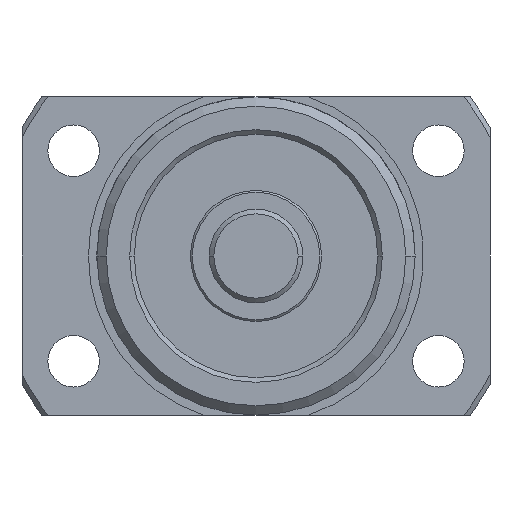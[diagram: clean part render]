
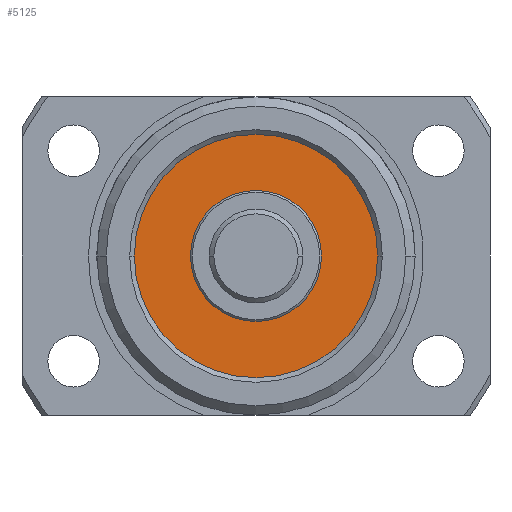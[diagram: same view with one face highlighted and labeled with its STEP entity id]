
A CAD part, left-side view. The second image highlights one B-rep face of the part: STEP entity #5125.
In plain terms, the highlighted planar face has unit normal (-1, 0, 0).
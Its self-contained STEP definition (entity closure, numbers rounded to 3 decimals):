
#9 = CARTESIAN_POINT ( 'NONE',  ( -36.5, 0., -7. ) ) ;
#776 = DIRECTION ( 'NONE',  ( -1., 0., 0. ) ) ;
#779 = CARTESIAN_POINT ( 'NONE',  ( -36.5, 0., 0. ) ) ;
#780 = PLANE ( 'NONE',  #5881 ) ;
#782 = DIRECTION ( 'NONE',  ( 0., -1., 0. ) ) ;
#1173 = CARTESIAN_POINT ( 'NONE',  ( -36.5, 0., 7. ) ) ;
#1624 = AXIS2_PLACEMENT_3D ( 'NONE', #3891, #3892, #3893 ) ;
#1723 = CARTESIAN_POINT ( 'NONE',  ( -36.5, -13., 0. ) ) ;
#1726 = CARTESIAN_POINT ( 'NONE',  ( -36.5, 13., 0. ) ) ;
#1791 = VERTEX_POINT ( 'NONE', #9 ) ;
#2264 = CIRCLE ( 'NONE', #5407, 13. ) ;
#2292 = CIRCLE ( 'NONE', #5428, 7. ) ;
#2362 = FACE_BOUND ( 'NONE', #2965, .T. ) ;
#2366 = FACE_OUTER_BOUND ( 'NONE', #2994, .T. ) ;
#2523 = CIRCLE ( 'NONE', #5958, 13. ) ;
#2603 = CIRCLE ( 'NONE', #1624, 7. ) ;
#2826 = EDGE_CURVE ( 'NONE', #4669, #4666, #2264, .T. ) ;
#2858 = EDGE_CURVE ( 'NONE', #6099, #1791, #2292, .T. ) ;
#2965 = EDGE_LOOP ( 'NONE', ( #5475, #5474 ) ) ;
#2994 = EDGE_LOOP ( 'NONE', ( #4139, #4138 ) ) ;
#3089 = DIRECTION ( 'NONE',  ( -1., 0., 0. ) ) ;
#3132 = DIRECTION ( 'NONE',  ( 0., -1., 0. ) ) ;
#3737 = CARTESIAN_POINT ( 'NONE',  ( -36.5, 0., 0. ) ) ;
#3738 = DIRECTION ( 'NONE',  ( -1., 0., 0. ) ) ;
#3739 = DIRECTION ( 'NONE',  ( 0., -1., 0. ) ) ;
#3891 = CARTESIAN_POINT ( 'NONE',  ( -36.5, 0., 0. ) ) ;
#3892 = DIRECTION ( 'NONE',  ( -1., 0., 0. ) ) ;
#3893 = DIRECTION ( 'NONE',  ( 0., -1., 0. ) ) ;
#4138 = ORIENTED_EDGE ( 'NONE', *, *, #5247, .T. ) ;
#4139 = ORIENTED_EDGE ( 'NONE', *, *, #2826, .T. ) ;
#4166 = DIRECTION ( 'NONE',  ( 0., -1., 0. ) ) ;
#4167 = DIRECTION ( 'NONE',  ( -1., 0., 0. ) ) ;
#4170 = CARTESIAN_POINT ( 'NONE',  ( -36.5, 0., 0. ) ) ;
#4666 = VERTEX_POINT ( 'NONE', #1726 ) ;
#4669 = VERTEX_POINT ( 'NONE', #1723 ) ;
#4740 = CARTESIAN_POINT ( 'NONE',  ( -36.5, 0., 0. ) ) ;
#5125 = ADVANCED_FACE ( 'NONE', ( #2362, #2366 ), #780, .T. ) ;
#5247 = EDGE_CURVE ( 'NONE', #4666, #4669, #2523, .T. ) ;
#5305 = EDGE_CURVE ( 'NONE', #1791, #6099, #2603, .T. ) ;
#5407 = AXIS2_PLACEMENT_3D ( 'NONE', #4170, #4167, #4166 ) ;
#5428 = AXIS2_PLACEMENT_3D ( 'NONE', #4740, #3089, #3132 ) ;
#5474 = ORIENTED_EDGE ( 'NONE', *, *, #2858, .F. ) ;
#5475 = ORIENTED_EDGE ( 'NONE', *, *, #5305, .F. ) ;
#5881 = AXIS2_PLACEMENT_3D ( 'NONE', #779, #776, #782 ) ;
#5958 = AXIS2_PLACEMENT_3D ( 'NONE', #3737, #3738, #3739 ) ;
#6099 = VERTEX_POINT ( 'NONE', #1173 ) ;
